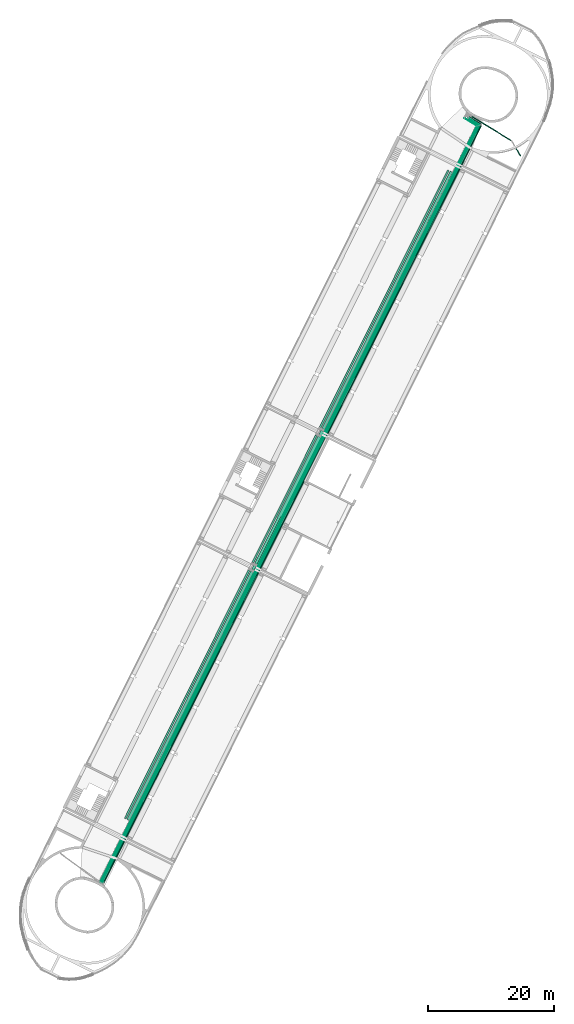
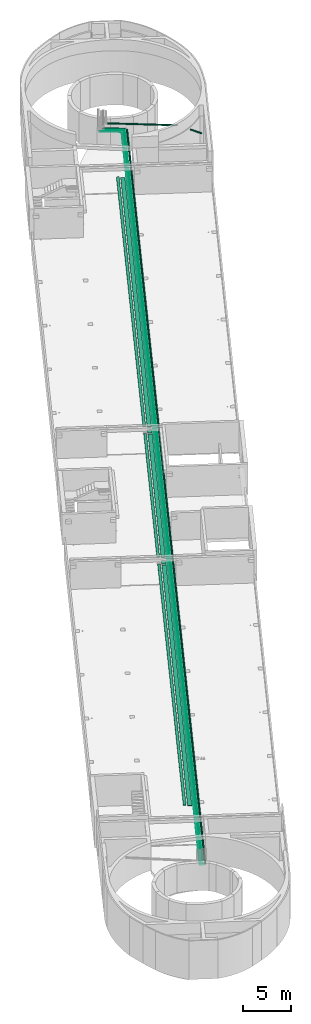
# One storey, part 22 of 47: 16 flow segments.
"""IFC2X3 building model written with IfcOpenShell, lengths in metres."""

from ifc_helpers import new_model, entity, si_unit, converted_unit, derived_unit, direction, frame, frame_2d, origin, origin_2d_with_axis, place, context, subcontext, project, spatial, rectangle, circle, extrude, type_object, element, save


model = new_model("IFC2X3")

# Units and contexts
model_context = context("Model", 3, precision=1e-05, world=origin(), true_north=direction((0.894925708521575, 0.446215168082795)))
context_of_model = context(None, 3, precision=1e-05, world=origin(), true_north=direction((0.894925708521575, 0.446215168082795)))
body_context = subcontext(model_context, "Body", "Model", "MODEL_VIEW")
ifc_project = project(units=[si_unit("LENGTHUNIT", "METRE"), si_unit("AREAUNIT", "SQUARE_METRE"), si_unit("VOLUMEUNIT", "CUBIC_METRE"), converted_unit("PLANEANGLEUNIT", "DEGREE", entity("IfcRatioMeasure", 0.0174532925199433), si_unit("PLANEANGLEUNIT", "RADIAN"), dimensions=[0, 0, 0, 0, 0, 0, 0]), si_unit("MASSUNIT", "GRAM", prefix="KILO"), si_unit("TIMEUNIT", "SECOND"), si_unit("FREQUENCYUNIT", "HERTZ"), si_unit("THERMODYNAMICTEMPERATUREUNIT", "DEGREE_CELSIUS"), derived_unit("THERMALTRANSMITTANCEUNIT", [(si_unit("MASSUNIT", "GRAM", prefix="KILO"), 1), (si_unit("THERMODYNAMICTEMPERATUREUNIT", "KELVIN"), -1), (si_unit("TIMEUNIT", "SECOND"), -3)]), derived_unit("VOLUMETRICFLOWRATEUNIT", [(si_unit("LENGTHUNIT", "METRE"), 3), (si_unit("TIMEUNIT", "SECOND"), -1)]), si_unit("ELECTRICCURRENTUNIT", "AMPERE"), si_unit("ELECTRICVOLTAGEUNIT", "VOLT"), si_unit("POWERUNIT", "WATT"), si_unit("FORCEUNIT", "NEWTON", prefix="KILO"), si_unit("ILLUMINANCEUNIT", "LUX"), si_unit("LUMINOUSFLUXUNIT", "LUMEN"), si_unit("LUMINOUSINTENSITYUNIT", "CANDELA"), si_unit("PRESSUREUNIT", "PASCAL")], contexts=[model_context, context_of_model])

# Site, building, storey
site_placement = place(None, frame((218.228324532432, 584.720189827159, 0.0), z_axis=(0.0, 0.0, 1.0), x_axis=(0.446215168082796, 0.894925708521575, 0.0)))
site = spatial("IfcSite", under=ifc_project, at=site_placement, Name="Default", CompositionType="ELEMENT")
building_placement = place(site_placement, origin())
building = spatial("IfcBuilding", under=site, at=building_placement, CompositionType="ELEMENT")
storey_placement = place(building_placement, frame((0.0, 0.0, 4.69)))
storey = spatial("IfcBuildingStorey", under=building, at=storey_placement, Name="1 - Piano Primo", CompositionType="ELEMENT", Elevation=4.69)

# Flow segments
pipe_segment_type_1 = type_object("IfcPipeSegmentType", Name="Tubazione:Pluviale-Tubazione", PredefinedType="NOTDEFINED")
flow_segment_1_placement = place(storey_placement, frame((66.1484175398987, -10.0245629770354, 3.23023292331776)))
element("IfcFlowSegment", 1, at=flow_segment_1_placement, inside=storey, type_object=pipe_segment_type_1, Name="Tubazione:Pluviale-Tubazione", ObjectType="Tubazione:Pluviale-Tubazione", context=body_context, shape_type="SweptSolid", body=[
    extrude(circle(Radius=0.0706501, at=origin_2d_with_axis()), frame((0.0719931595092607, 0.00767443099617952, 0.0722346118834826), z_axis=(0.0844088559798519, 0.996278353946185, 0.0174524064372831), x_axis=(0.99643011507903, -0.0844217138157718, 0.0)), (0.0, 0.0, 1.0), 7.37546918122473),
])
flow_segment_2_placement = place(storey_placement, frame((64.619464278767, -12.4873592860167, 3.17978712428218)))
element("IfcFlowSegment", 2, at=flow_segment_2_placement, inside=storey, type_object=pipe_segment_type_1, Name="Tubazione:Pluviale-Tubazione", ObjectType="Tubazione:Pluviale-Tubazione", context=body_context, shape_type="SweptSolid", body=[
    extrude(circle(Radius=0.0706501, at=origin_2d_with_axis()), frame((0.0605613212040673, 0.040511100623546, 0.0722346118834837), z_axis=(0.550740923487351, 0.83449376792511, 0.0174524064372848), x_axis=(-0.834620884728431, 0.550824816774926, 0.0)), (0.0, 0.0, 1.0), 1.32000000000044),
])
pipe_segment_type_2 = type_object("IfcPipeSegmentType", Name="Tubazione:Riscaldamento-Tubazione", PredefinedType="NOTDEFINED")
flow_segment_3_placement = place(storey_placement, frame((-68.3855871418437, -4.78681176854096, 2.87426722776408)))
element("IfcFlowSegment", 3, at=flow_segment_3_placement, inside=storey, type_object=pipe_segment_type_2, Name="Tubazione:Riscaldamento-Tubazione", ObjectType="Tubazione:Riscaldamento-Tubazione", context=body_context, shape_type="SweptSolid", body=[
    extrude(circle(Radius=0.0841375, at=frame_2d((5.41433564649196e-16, 0.0), x_axis=(1.0, 0.0))), frame((0.0, 0.0857327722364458, 0.0857327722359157), z_axis=(1.0, 0.0, 0.0), x_axis=(0.0, -1.0, 0.0)), (0.0, 0.0, 1.0), 134.603300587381),
])
flow_segment_4_placement = place(storey_placement, frame((66.2971131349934, -4.55831992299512, 2.87426722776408)))
element("IfcFlowSegment", 4, at=flow_segment_4_placement, inside=storey, type_object=pipe_segment_type_2, Name="Tubazione:Riscaldamento-Tubazione", ObjectType="Tubazione:Riscaldamento-Tubazione", context=body_context, shape_type="SweptSolid", body=[
    extrude(circle(Radius=0.0841375, at=frame_2d((4.57087494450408e-17, -1.08286712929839e-15), x_axis=(1.0, 0.0))), frame((0.0854324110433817, 0.00869830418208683, 0.0857327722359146), z_axis=(0.0844217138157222, 0.996430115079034, 0.0), x_axis=(0.996430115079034, -0.0844217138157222, 0.0)), (0.0, 0.0, 1.0), 2.38273759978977),
])
cable_carrier_segment_type = type_object("IfcCableCarrierSegmentType", Name="Passerella con raccordi:Passerella canale", PredefinedType="NOTDEFINED")
flow_segment_5_placement = place(storey_placement, frame((-57.6537571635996, -3.35107899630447, 2.99249999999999)))
element("IfcFlowSegment", 5, at=flow_segment_5_placement, inside=storey, type_object=cable_carrier_segment_type, Name="Passerella con raccordi:Passerella canale", ObjectType="Passerella con raccordi:Passerella canale", context=body_context, shape_type="SweptSolid", body=[
    extrude(rectangle(XDim=44.1498, YDim=0.3, at=frame_2d((0.0, -2.63677968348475e-16), x_axis=(1.0, 0.0))), frame((22.0749, 0.150000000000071, 0.0)), (0.0, 0.0, 1.0), 0.0750000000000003),
])
flow_segment_6_placement = place(storey_placement, frame((-12.1648212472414, -3.35107899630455, 2.99249999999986)))
element("IfcFlowSegment", 6, at=flow_segment_6_placement, inside=storey, type_object=cable_carrier_segment_type, Name="Passerella con raccordi:Passerella canale", ObjectType="Passerella con raccordi:Passerella canale", context=body_context, shape_type="SweptSolid", body=[
    extrude(rectangle(XDim=22.6394507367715, YDim=0.3, at=origin_2d_with_axis()), frame((11.3197253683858, 0.150000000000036, 0.0)), (0.0, 0.0, 1.0), 0.0750000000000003),
])
flow_segment_7_placement = place(storey_placement, frame((11.8137654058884, -3.3510789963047, 2.99249999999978)))
element("IfcFlowSegment", 7, at=flow_segment_7_placement, inside=storey, type_object=cable_carrier_segment_type, Name="Passerella con raccordi:Passerella canale", ObjectType="Passerella con raccordi:Passerella canale", context=body_context, shape_type="SweptSolid", body=[
    extrude(rectangle(XDim=45.7221715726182, YDim=0.3, at=origin_2d_with_axis()), frame((22.8610857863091, 0.150000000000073, 0.0)), (0.0, 0.0, 1.0), 0.0750000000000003),
])
flow_segment_8_placement = place(storey_placement, frame((-57.6537571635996, -3.95107899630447, 2.89249999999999)))
element("IfcFlowSegment", 8, at=flow_segment_8_placement, inside=storey, type_object=cable_carrier_segment_type, Name="Passerella con raccordi:Passerella canale", ObjectType="Passerella con raccordi:Passerella canale", context=body_context, shape_type="SweptSolid", body=[
    extrude(rectangle(XDim=44.1498, YDim=0.450000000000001, at=frame_2d((0.0, -2.77555756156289e-16), x_axis=(1.0, 0.0))), frame((22.0749, 0.225000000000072, 0.0)), (0.0, 0.0, 1.0), 0.0750000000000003),
])
flow_segment_9_placement = place(storey_placement, frame((-13.1843892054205, -3.95107899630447, 2.7927510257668)))
element("IfcFlowSegment", 9, at=flow_segment_9_placement, inside=storey, type_object=cable_carrier_segment_type, Name="Passerella con raccordi:Passerella canale", ObjectType="Passerella con raccordi:Passerella canale", context=body_context, shape_type="SweptSolid", body=[
    extrude(rectangle(XDim=0.699999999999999, YDim=0.45, at=frame_2d((-1.08246744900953e-15, 0.0), x_axis=(1.0, 0.0))), frame((0.350000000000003, 0.225000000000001, 0.0)), (0.0, 0.0, 1.0), 0.0750000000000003),
])
flow_segment_10_placement = place(storey_placement, frame((-12.1648212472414, -3.95107899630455, 2.89249999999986)))
element("IfcFlowSegment", 10, at=flow_segment_10_placement, inside=storey, type_object=cable_carrier_segment_type, Name="Passerella con raccordi:Passerella canale", ObjectType="Passerella con raccordi:Passerella canale", context=body_context, shape_type="SweptSolid", body=[
    extrude(rectangle(XDim=22.6394507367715, YDim=0.45, at=origin_2d_with_axis()), frame((11.3197253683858, 0.225000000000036, 0.0)), (0.0, 0.0, 1.0), 0.0750000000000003),
])
flow_segment_11_placement = place(storey_placement, frame((10.7941974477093, -3.95107899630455, 2.79275102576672)))
element("IfcFlowSegment", 11, at=flow_segment_11_placement, inside=storey, type_object=cable_carrier_segment_type, Name="Passerella con raccordi:Passerella canale", ObjectType="Passerella con raccordi:Passerella canale", context=body_context, shape_type="SweptSolid", body=[
    extrude(rectangle(XDim=0.699999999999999, YDim=0.450000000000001, at=frame_2d((-1.08246744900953e-15, 0.0), x_axis=(1.0, 0.0))), frame((0.350000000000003, 0.225000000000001, 0.0)), (0.0, 0.0, 1.0), 0.0750000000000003),
])
flow_segment_12_placement = place(storey_placement, frame((11.8137654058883, -3.9510789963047, 2.89249999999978)))
element("IfcFlowSegment", 12, at=flow_segment_12_placement, inside=storey, type_object=cable_carrier_segment_type, Name="Passerella con raccordi:Passerella canale", ObjectType="Passerella con raccordi:Passerella canale", context=body_context, shape_type="SweptSolid", body=[
    extrude(rectangle(XDim=45.7221715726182, YDim=0.450000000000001, at=origin_2d_with_axis()), frame((22.8610857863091, 0.225000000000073, 0.0)), (0.0, 0.0, 1.0), 0.0750000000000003),
])
pipe_segment_type_3 = type_object("IfcPipeSegmentType", Name="Tubazione:Antincendio-Tubazione", PredefinedType="NOTDEFINED")
flow_segment_13_placement = place(storey_placement, frame((-68.4562266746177, -4.47212426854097, 2.91395472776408)))
element("IfcFlowSegment", 13, at=flow_segment_13_placement, inside=storey, type_object=pipe_segment_type_3, Name="Tubazione:Antincendio-Tubazione", ObjectType="Tubazione:Antincendio-Tubazione", context=body_context, shape_type="SweptSolid", body=[
    extrude(circle(Radius=0.04445, at=frame_2d((5.41433564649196e-16, 1.08286712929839e-15), x_axis=(1.0, 0.0))), frame((0.0, 0.0460452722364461, 0.0460452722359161), z_axis=(1.0, 0.0, 0.0), x_axis=(0.0, -1.0, 0.0)), (0.0, 0.0, 1.0), 134.497254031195),
])
flow_segment_14_placement = place(storey_placement, frame((-68.4748662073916, -4.17375626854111, 2.93732272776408)))
element("IfcFlowSegment", 14, at=flow_segment_14_placement, inside=storey, type_object=pipe_segment_type_3, Name="Tubazione:Antincendio-Tubazione", ObjectType="Tubazione:Antincendio-Tubazione", context=body_context, shape_type="SweptSolid", body=[
    extrude(circle(Radius=0.021082, at=frame_2d((-3.40020278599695e-13, 0.0), x_axis=(1.0, 0.0))), frame((0.0, 0.0226772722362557, 0.0226772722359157), z_axis=(1.0, 0.0, 0.0), x_axis=(0.0, 1.0, 0.0)), (0.0, 0.0, 1.0), 134.30720747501),
])
flow_segment_15_placement = place(storey_placement, frame((65.8444407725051, -4.12256854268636, 2.9373227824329)))
element("IfcFlowSegment", 15, at=flow_segment_15_placement, inside=storey, type_object=pipe_segment_type_3, Name="Tubazione:Antincendio-Tubazione", ObjectType="Tubazione:Antincendio-Tubazione", context=body_context, shape_type="SweptSolid", body=[
    extrude(circle(Radius=0.021082, at=origin_2d_with_axis()), frame((0.0226019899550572, 0.00337531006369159, 0.0226772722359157), z_axis=(0.0844340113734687, 0.996429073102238, 0.0), x_axis=(-0.996429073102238, 0.0844340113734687, 0.0)), (0.0, 0.0, 1.0), 2.32172093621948),
])
flow_segment_16_placement = place(storey_placement, frame((66.0775568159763, -4.35569812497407, 2.91395472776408)))
element("IfcFlowSegment", 16, at=flow_segment_16_placement, inside=storey, type_object=pipe_segment_type_3, Name="Tubazione:Antincendio-Tubazione", ObjectType="Tubazione:Antincendio-Tubazione", context=body_context, shape_type="SweptSolid", body=[
    extrude(circle(Radius=0.04445, at=origin_2d_with_axis()), frame((0.0458865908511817, 0.00534781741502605, 0.046045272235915), z_axis=(0.0844217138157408, 0.996430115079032, 0.0), x_axis=(0.996430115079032, -0.0844217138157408, 0.0)), (0.0, 0.0, 1.0), 2.00817107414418),
])

save(model, "model.ifc")
